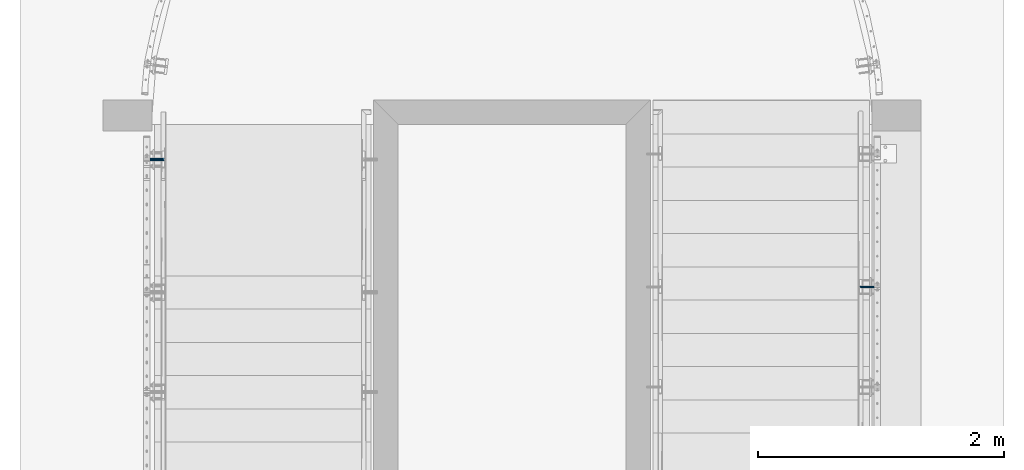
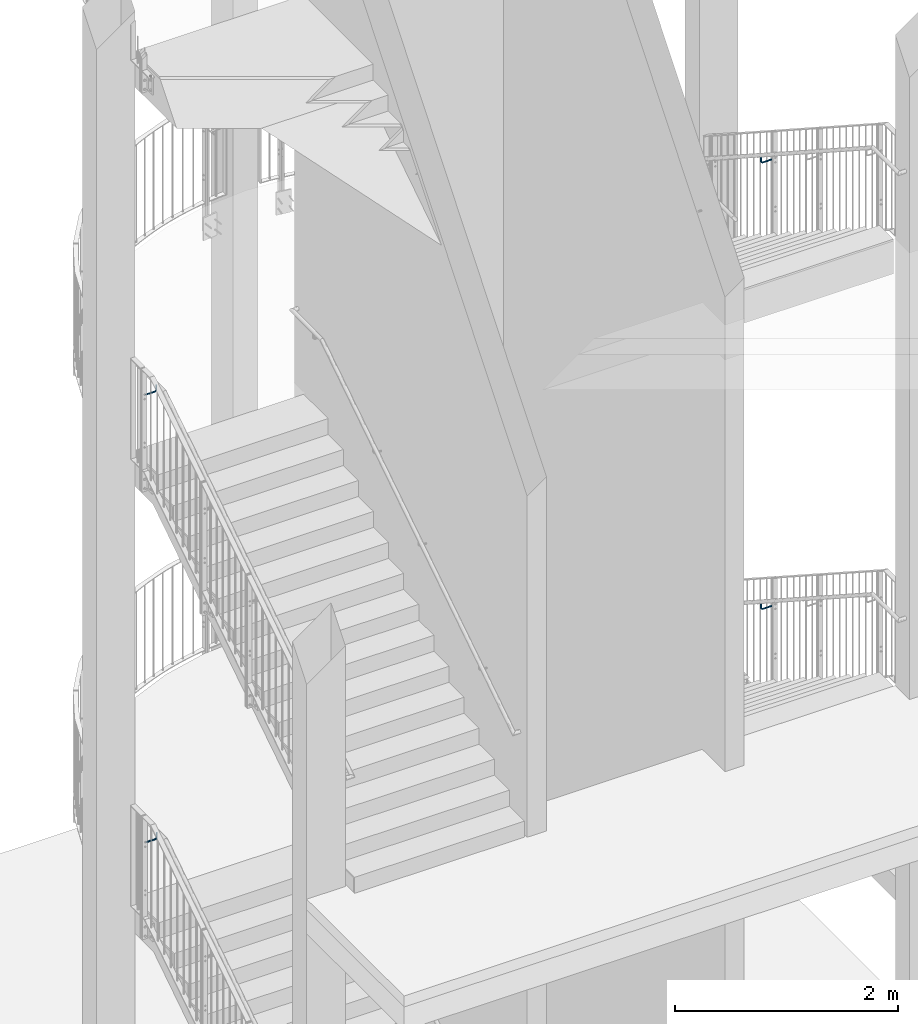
# One storey, part 137 of 296: 4 beams.
"""IFC2X3 building model written with IfcOpenShell, lengths in millimetres."""

import ifcopenshell
import ifcopenshell.guid

model = None  # the IFC model being written
_history = None  # IfcOwnerHistory: only IFC2X3 demands one
_inside = {}  # id of a spatial element -> (the spatial element, [elements in it])
_under = {}  # id of a project, library or spatial element -> (it, [spatial elements below it])
_declared = {}  # id of a project -> (the project, [libraries it declares])
_typed = {}  # id of a type object -> (the type object, [elements of that type])
_made_of = {}  # id of a material, layer set ... -> (it, [elements and type objects made of it])


def new_model(schema):
    """Start an empty IFC model of exactly this schema.

    Asked for "IFC4X3", IfcOpenShell would pick the latest addendum, in which some entities
    have other attributes; the version numbers below select the first issue.
    IFC2X3 requires an IfcOwnerHistory on every rooted entity: one is made here for all.
    """
    global model, _history
    if schema == "IFC4X3":
        model = ifcopenshell.file(schema_version=(4, 3, 0, 0))
    else:
        model = ifcopenshell.file(schema=schema)
    _inside.clear()
    _under.clear()
    _declared.clear()
    _typed.clear()
    _made_of.clear()
    _history = None
    if model.schema == "IFC2X3":
        org = make("IfcOrganization", Name="unknown")
        user = make(
            "IfcPersonAndOrganization",
            ThePerson=make("IfcPerson", FamilyName="unknown"),
            TheOrganization=org,
        )
        app = make(
            "IfcApplication",
            ApplicationDeveloper=org,
            Version="unknown",
            ApplicationFullName="unknown",
            ApplicationIdentifier="unknown",
        )
        _history = make(
            "IfcOwnerHistory",
            OwningUser=user,
            OwningApplication=app,
            ChangeAction="ADDED",
            CreationDate=0,
        )
    return model


def make(cls, **values):
    """One entity of the class cls with the attributes given. An attribute that is None is left unset."""
    return model.create_entity(
        cls, **{name: value for name, value in values.items() if value is not None}
    )


def entity(cls, *values):
    """Any entity or typed value of the class cls, its attributes in the order of the schema. None: left unset."""
    e = model.create_entity(cls)
    for i, value in enumerate(values):
        if value is not None:
            e[i] = value
    return e


def rooted(cls, **values):
    """An entity with a GlobalId (a new one), such as an element, a storey or a relation."""
    return make(cls, GlobalId=ifcopenshell.guid.new(), OwnerHistory=_history, **values)


def si_unit(unit_type, name, prefix=None):
    """IfcSIUnit, for example si_unit("LENGTHUNIT", "METRE", prefix="MILLI")."""
    return make("IfcSIUnit", UnitType=unit_type, Prefix=prefix, Name=name)


def converted_unit(unit_type, name, factor, base, dimensions=None, offset=None):
    """IfcConversionBasedUnit, such as the inch: factor (a typed value) times the base unit."""
    return make(
        "IfcConversionBasedUnit"
        if offset is None
        else "IfcConversionBasedUnitWithOffset",
        ConversionOffset=offset,
        Dimensions=None
        if dimensions is None
        else entity("IfcDimensionalExponents", *dimensions),
        UnitType=unit_type,
        Name=name,
        ConversionFactor=make(
            "IfcMeasureWithUnit", ValueComponent=factor, UnitComponent=base
        ),
    )


def assignment(units):
    """IfcUnitAssignment: the units of a project."""
    return None if units is None else make("IfcUnitAssignment", Units=units)


def point(xyz):
    """IfcCartesianPoint."""
    return None if xyz is None else make("IfcCartesianPoint", Coordinates=xyz)


def direction(xyz):
    """IfcDirection."""
    return None if xyz is None else make("IfcDirection", DirectionRatios=xyz)


def frame(location, z_axis=None, x_axis=None):
    """IfcAxis2Placement3D, a coordinate frame: its origin and axes. An axis left out is left unset."""
    return make(
        "IfcAxis2Placement3D",
        Location=point(location),
        Axis=direction(z_axis),
        RefDirection=direction(x_axis),
    )


def origin_with_axes():
    """The frame at (0, 0, 0) with the z axis (0, 0, 1) and the x axis (1, 0, 0) written out."""
    return frame((0.0, 0.0, 0.0), z_axis=(0.0, 0.0, 1.0), x_axis=(1.0, 0.0, 0.0))


def place(relative_to, where):
    """IfcLocalPlacement: puts the frame where relative to a parent placement (None: the world)."""
    return make(
        "IfcLocalPlacement", PlacementRelTo=relative_to, RelativePlacement=where
    )


def context(
    kind, dimensions, precision=None, world=None, true_north=None, identifier=None
):
    """IfcGeometricRepresentationContext, for example the 3D "Model" context."""
    return make(
        "IfcGeometricRepresentationContext",
        ContextIdentifier=identifier,
        ContextType=kind,
        CoordinateSpaceDimension=dimensions,
        Precision=precision,
        WorldCoordinateSystem=world,
        TrueNorth=true_north,
    )


def project(units=None, contexts=None):
    """IfcProject with its units and contexts."""
    return rooted(
        "IfcProject",
        Name="project",
        RepresentationContexts=contexts,
        UnitsInContext=assignment(units),
    )


def spatial(cls, under=None, at=None, **own):
    """A site, building, storey or space (cls), placed at a placement, below another one or the project."""
    s = rooted(cls, ObjectPlacement=at, **own)
    if under is not None:
        _under.setdefault(under.id(), (under, []))[1].append(s)
    return s


def faces_of(points, faces, orient=None, outer=None):
    """IfcFace entities. A face is a list of loops; a loop is a list of indices into points, from 0.

    orient and outer hold one flag for each loop. By default every Orientation is true, the
    first loop of a face is its IfcFaceOuterBound and the others are IfcFaceBound.
    """
    made = []
    for i, loops in enumerate(faces):
        bounds = []
        for j, loop in enumerate(loops):
            is_outer = j == 0 if outer is None else outer[i][j]
            bounds.append(
                make(
                    "IfcFaceOuterBound" if is_outer else "IfcFaceBound",
                    Bound=make("IfcPolyLoop", Polygon=[points[k] for k in loop]),
                    Orientation=True if orient is None else orient[i][j],
                )
            )
        made.append(make("IfcFace", Bounds=bounds))
    return made


def faceted_brep(points, faces, orient=None, outer=None, voids=None):
    """IfcFacetedBrep: a solid bounded by flat faces; with voids (closed shells), ...WithVoids."""
    shared = [point(p) for p in points]
    hull = make("IfcClosedShell", CfsFaces=faces_of(shared, faces, orient, outer))
    if voids is None:
        return make("IfcFacetedBrep", Outer=hull)
    return make(
        "IfcFacetedBrepWithVoids",
        Outer=hull,
        Voids=[
            make(cls, CfsFaces=faces_of(shared, fs, o, b)) for cls, fs, o, b in voids
        ],
    )


def shape(context_of_items, identifier, shape_type, items):
    """IfcShapeRepresentation: the items that make up one representation, for example the "Body"."""
    return make(
        "IfcShapeRepresentation",
        ContextOfItems=context_of_items,
        RepresentationIdentifier=identifier,
        RepresentationType=shape_type,
        Items=items,
    )


def material(Name=None, Category=None):
    """IfcMaterial."""
    return make("IfcMaterial", Name=Name, Category=Category)


def made_of(thing, what):
    """Note that an element or type object is made of a material, layer set ...; save() writes the relation."""
    if what is not None:
        _made_of.setdefault(what.id(), (what, []))[1].append(thing)
    return thing


def element(
    cls,
    number,
    at=None,
    inside=None,
    cuts=None,
    type_object=None,
    material=None,
    context=None,
    identifier="Body",
    shape_type=None,
    held_by="IfcProductDefinitionShape",
    body=None,
    shapes=None,
    **own,
):
    """One element of the class cls, such as IfcWall. Its Tag is "e" and its number.

    at: its placement. inside: the storey or other place that contains it. cuts: it is an
    opening in that element (IfcRelVoidsElement). A single representation is given by context,
    identifier, shape_type and body (its items); several are given by shapes. held_by: the class
    of the entity that holds the representations. save() writes the other relations.
    """
    e = rooted(cls, Tag="e%d" % number, ObjectPlacement=at, **own)
    if body is not None:
        shapes = [shape(context, identifier, shape_type, body)]
    if shapes is not None:
        e.Representation = make(held_by, Representations=shapes)
    if inside is not None:
        _inside.setdefault(inside.id(), (inside, []))[1].append(e)
    if cuts is not None:
        rooted(
            "IfcRelVoidsElement", RelatingBuildingElement=cuts, RelatedOpeningElement=e
        )
    if type_object is not None:
        _typed.setdefault(type_object.id(), (type_object, []))[1].append(e)
    return made_of(e, material)


def aggregate(whole, parts):
    """IfcRelAggregates: a whole, such as a stair, and the parts it consists of."""
    return rooted("IfcRelAggregates", RelatingObject=whole, RelatedObjects=parts)


def save(model, path):
    """Write the relations noted so far, then the file.

    IfcRelAggregates (storeys below a building ...), IfcRelContainedInSpatialStructure (elements
    in a storey), IfcRelDefinesByType, IfcRelAssociatesMaterial and IfcRelDeclares: one each for
    every whole, place, type object, material and project.
    """
    for whole, parts in _under.values():
        aggregate(whole, parts)
    for where, things in _inside.values():
        rooted(
            "IfcRelContainedInSpatialStructure",
            RelatedElements=things,
            RelatingStructure=where,
        )
    for kind, things in _typed.values():
        rooted("IfcRelDefinesByType", RelatedObjects=things, RelatingType=kind)
    for what, things in _made_of.values():
        rooted("IfcRelAssociatesMaterial", RelatedObjects=things, RelatingMaterial=what)
    for by, libraries in _declared.values():
        rooted("IfcRelDeclares", RelatingContext=by, RelatedDefinitions=libraries)
    model.write(path)


model = new_model("IFC2X3")

# Units and contexts
model_context = context("Model", 3, precision=1e-09, world=origin_with_axes())
ifc_project = project(units=[si_unit("LENGTHUNIT", "METRE", prefix="MILLI"), si_unit("AREAUNIT", "SQUARE_METRE"), si_unit("VOLUMEUNIT", "CUBIC_METRE"), converted_unit("PLANEANGLEUNIT", "DEGREE", entity("IfcPlaneAngleMeasure", 0.01745329), si_unit("PLANEANGLEUNIT", "RADIAN"), dimensions=[0, 0, 0, 0, 0, 0, 0])], contexts=[model_context])

# Site, building, storey
site_placement = place(None, origin_with_axes())
site = spatial("IfcSite", under=ifc_project, at=site_placement, Name="TZD-S?d | Treppenhausgel?nder", CompositionType="ELEMENT")
building_placement = place(site_placement, origin_with_axes())
building = spatial("IfcBuilding", under=site, at=building_placement, Name="Struktur 1", CompositionType="ELEMENT")
storey_placement = place(building_placement, origin_with_axes())
storey = spatial("IfcBuildingStorey", under=building, at=storey_placement, Name="Default Storey", CompositionType="ELEMENT", Elevation=0.0)

# Beams
ifc_material = material(Name="S235JR")
beam_1_placement = place(None, origin_with_axes())
element("IfcBeam", 1, at=beam_1_placement, inside=storey, material=ifc_material, Name="-", ObjectType="-", context=model_context, shape_type="Brep", body=[
    faceted_brep([(5763.105419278, -1525.00183956, 9357.017363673), (5756.892580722, -1525.00183956, 9357.017363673), (5757.702899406, -1525.543277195, 9357.017363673), (5759.999, -1526.0, 9357.017363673), (5762.295100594, -1525.543277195, 9357.017363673), (5755.756359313, -1524.242640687, 9356.525659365), (5754.455722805, -1522.296100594, 9355.264959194), (5754.455722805, -1522.296100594, 9312.017363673), (5755.756359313, -1524.242640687, 9312.017363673), (5757.702899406, -1525.543277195, 9312.017363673), (5759.999, -1526.0, 9312.017363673), (5762.295100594, -1525.543277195, 9312.017363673), (5764.241640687, -1524.242640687, 9356.525659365), (5764.241640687, -1524.242640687, 9312.017363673), (5765.542277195, -1522.296100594, 9355.264959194), (5765.542277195, -1522.296100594, 9312.017363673), (5765.999, -1520.0, 9353.777861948), (5765.999, -1520.0, 9312.017363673), (5765.542277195, -1517.703899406, 9352.290764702), (5765.542277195, -1517.703899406, 9312.017363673), (5764.241640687, -1515.757359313, 9351.030064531), (5764.241640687, -1515.757359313, 9312.017363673), (5762.295100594, -1514.456722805, 9350.187691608), (5762.295100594, -1514.456722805, 9312.017363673), (5759.999, -1514.0, 9349.891889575), (5759.999, -1514.0, 9312.017363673), (5757.702899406, -1514.456722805, 9350.187691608), (5757.702899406, -1514.456722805, 9312.017363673), (5755.756359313, -1515.757359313, 9351.030064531), (5755.756359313, -1515.757359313, 9312.017363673), (5754.455722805, -1517.703899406, 9352.290764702), (5754.455722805, -1517.703899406, 9312.017363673), (5753.999, -1520.0, 9353.777861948), (5753.999, -1520.0, 9312.017363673), (5869.999, -1524.242640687, 9287.774722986), (5869.999, -1522.296100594, 9286.474086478), (5869.999, -1520.0, 9286.017363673), (5869.999, -1517.703899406, 9286.474086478), (5869.999, -1515.757359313, 9287.774722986), (5869.999, -1514.456722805, 9289.721263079), (5869.999, -1514.0, 9292.017363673), (5869.999, -1514.456722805, 9294.313464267), (5869.999, -1515.757359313, 9296.26000436), (5869.999, -1517.703899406, 9297.560640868), (5869.999, -1520.0, 9298.017363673), (5869.999, -1522.296100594, 9297.560640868), (5869.999, -1524.242640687, 9296.26000436), (5869.999, -1525.543277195, 9294.313464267), (5869.999, -1526.0, 9292.017363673), (5869.999, -1525.543277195, 9289.721263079), (5756.400089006, -1522.296100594, 9302.242374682), (5757.601720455, -1524.242640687, 9302.740106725), (5759.400089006, -1525.543277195, 9303.485015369), (5761.52140935, -1526.0, 9304.363695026), (5763.642729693, -1525.543277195, 9305.242374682), (5765.441098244, -1524.242640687, 9305.987283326), (5766.642729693, -1522.296100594, 9306.485015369), (5767.064686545, -1520.0, 9306.65979562), (5766.642729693, -1517.703899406, 9306.485015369), (5765.441098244, -1515.757359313, 9305.987283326), (5763.642729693, -1514.456722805, 9305.242374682), (5761.52140935, -1514.0, 9304.363695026), (5759.400089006, -1514.456722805, 9303.485015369), (5757.601720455, -1515.757359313, 9302.740106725), (5756.400089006, -1517.703899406, 9302.242374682), (5755.978132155, -1520.0, 9302.067594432), (5761.937175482, -1522.296100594, 9293.955539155), (5762.856864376, -1524.242640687, 9294.875228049), (5764.233276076, -1525.543277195, 9296.251639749), (5765.856864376, -1526.0, 9297.875228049), (5767.480452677, -1525.543277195, 9299.49881635), (5768.856864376, -1524.242640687, 9300.875228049), (5769.776553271, -1522.296100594, 9301.794916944), (5770.099505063, -1520.0, 9302.117868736), (5769.776553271, -1517.703899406, 9301.794916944), (5768.856864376, -1515.757359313, 9300.875228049), (5767.480452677, -1514.456722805, 9299.49881635), (5765.856864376, -1514.0, 9297.875228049), (5764.233276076, -1514.456722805, 9296.251639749), (5762.856864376, -1515.757359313, 9294.875228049), (5761.937175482, -1517.703899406, 9293.955539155), (5761.614223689, -1520.0, 9293.632587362), (5770.224011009, -1522.296100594, 9288.418452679), (5770.721743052, -1524.242640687, 9289.620084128), (5771.466651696, -1525.543277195, 9291.418452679), (5772.345331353, -1526.0, 9293.539773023), (5773.224011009, -1525.543277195, 9295.661093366), (5773.968919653, -1524.242640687, 9297.459461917), (5774.466651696, -1522.296100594, 9298.661093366), (5774.641431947, -1520.0, 9299.083050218), (5774.466651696, -1517.703899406, 9298.661093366), (5773.968919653, -1515.757359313, 9297.459461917), (5773.224011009, -1514.456722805, 9295.661093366), (5772.345331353, -1514.0, 9293.539773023), (5771.466651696, -1514.456722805, 9291.418452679), (5770.721743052, -1515.757359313, 9289.620084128), (5770.224011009, -1517.703899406, 9288.418452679), (5770.049230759, -1520.0, 9287.996495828), (5779.999, -1522.296100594, 9286.474086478), (5779.999, -1524.242640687, 9287.774722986), (5779.999, -1525.543277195, 9289.721263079), (5779.999, -1526.0, 9292.017363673), (5779.999, -1525.543277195, 9294.313464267), (5779.999, -1524.242640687, 9296.26000436), (5779.999, -1522.296100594, 9297.560640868), (5779.999, -1520.0, 9298.017363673), (5779.999, -1517.703899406, 9297.560640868), (5779.999, -1515.757359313, 9296.26000436), (5779.999, -1514.456722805, 9294.313464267), (5779.999, -1514.0, 9292.017363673), (5779.999, -1514.456722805, 9289.721263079), (5779.999, -1515.757359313, 9287.774722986), (5779.999, -1517.703899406, 9286.474086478), (5779.999, -1520.0, 9286.017363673)], [[[0, 1, 2, 3, 4]], [[5, 6, 7, 8]], [[1, 5, 8, 9, 2]], [[3, 2, 9, 10]], [[4, 3, 10, 11]], [[12, 0, 4, 11, 13]], [[14, 12, 13, 15]], [[16, 14, 15, 17]], [[18, 16, 17, 19]], [[20, 18, 19, 21]], [[22, 20, 21, 23]], [[24, 22, 23, 25]], [[26, 24, 25, 27]], [[28, 26, 27, 29]], [[30, 28, 29, 31]], [[32, 30, 31, 33]], [[6, 32, 33, 7]], [[14, 16, 18, 20, 22, 24, 26, 28, 30, 32, 6, 5, 1, 0, 12]], [[34, 35, 36, 37, 38, 39, 40, 41, 42, 43, 44, 45, 46, 47, 48, 49]], [[8, 7, 50, 51]], [[9, 8, 51, 52]], [[10, 9, 52, 53]], [[11, 10, 53, 54]], [[13, 11, 54, 55]], [[15, 13, 55, 56]], [[17, 15, 56, 57]], [[19, 17, 57, 58]], [[21, 19, 58, 59]], [[23, 21, 59, 60]], [[25, 23, 60, 61]], [[27, 25, 61, 62]], [[29, 27, 62, 63]], [[31, 29, 63, 64]], [[33, 31, 64, 65]], [[7, 33, 65, 50]], [[51, 50, 66, 67]], [[52, 51, 67, 68]], [[53, 52, 68, 69]], [[54, 53, 69, 70]], [[55, 54, 70, 71]], [[56, 55, 71, 72]], [[57, 56, 72, 73]], [[58, 57, 73, 74]], [[59, 58, 74, 75]], [[60, 59, 75, 76]], [[61, 60, 76, 77]], [[62, 61, 77, 78]], [[63, 62, 78, 79]], [[64, 63, 79, 80]], [[65, 64, 80, 81]], [[50, 65, 81, 66]], [[67, 66, 82, 83]], [[68, 67, 83, 84]], [[69, 68, 84, 85]], [[70, 69, 85, 86]], [[71, 70, 86, 87]], [[72, 71, 87, 88]], [[73, 72, 88, 89]], [[74, 73, 89, 90]], [[75, 74, 90, 91]], [[76, 75, 91, 92]], [[77, 76, 92, 93]], [[78, 77, 93, 94]], [[79, 78, 94, 95]], [[80, 79, 95, 96]], [[81, 80, 96, 97]], [[66, 81, 97, 82]], [[83, 82, 98, 99]], [[84, 83, 99, 100]], [[85, 84, 100, 101]], [[86, 85, 101, 102]], [[87, 86, 102, 103]], [[88, 87, 103, 104]], [[89, 88, 104, 105]], [[90, 89, 105, 106]], [[91, 90, 106, 107]], [[92, 91, 107, 108]], [[93, 92, 108, 109]], [[94, 93, 109, 110]], [[95, 94, 110, 111]], [[96, 95, 111, 112]], [[97, 96, 112, 113]], [[82, 97, 113, 98]], [[99, 98, 35, 34]], [[100, 99, 34, 49]], [[101, 100, 49, 48]], [[102, 101, 48, 47]], [[103, 102, 47, 46]], [[104, 103, 46, 45]], [[105, 104, 45, 44]], [[106, 105, 44, 43]], [[107, 106, 43, 42]], [[108, 107, 42, 41]], [[109, 108, 41, 40]], [[110, 109, 40, 39]], [[111, 110, 39, 38]], [[112, 111, 38, 37]], [[113, 112, 37, 36]], [[98, 113, 36, 35]]]),
])
beam_2_placement = place(None, origin_with_axes())
element("IfcBeam", 2, at=beam_2_placement, inside=storey, material=ifc_material, Name="-", ObjectType="-", context=model_context, shape_type="Brep", body=[
    faceted_brep([(5763.105415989, -1525.001841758, 4462.704729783), (5756.892584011, -1525.001841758, 4462.704729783), (5757.702899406, -1525.543277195, 4462.704729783), (5759.999, -1526.0, 4462.704729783), (5762.295100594, -1525.543277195, 4462.704729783), (5755.756359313, -1524.242640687, 4462.213856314), (5754.455722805, -1522.296100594, 4460.955290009), (5754.455722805, -1522.296100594, 4417.704729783), (5755.756359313, -1524.242640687, 4417.704729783), (5757.702899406, -1525.543277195, 4417.704729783), (5759.999, -1526.0, 4417.704729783), (5762.295100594, -1525.543277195, 4417.704729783), (5764.241640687, -1524.242640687, 4462.213856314), (5764.241640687, -1524.242640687, 4417.704729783), (5765.542277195, -1522.296100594, 4460.955290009), (5765.542277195, -1522.296100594, 4417.704729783), (5765.999, -1520.0, 4459.470709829), (5765.999, -1520.0, 4417.704729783), (5765.542277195, -1517.703899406, 4457.986129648), (5765.542277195, -1517.703899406, 4417.704729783), (5764.241640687, -1515.757359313, 4456.727563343), (5764.241640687, -1515.757359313, 4417.704729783), (5762.295100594, -1514.456722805, 4455.886616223), (5762.295100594, -1514.456722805, 4417.704729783), (5759.999, -1514.0, 4455.591314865), (5759.999, -1514.0, 4417.704729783), (5757.702899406, -1514.456722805, 4455.886616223), (5757.702899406, -1514.456722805, 4417.704729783), (5755.756359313, -1515.757359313, 4456.727563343), (5755.756359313, -1515.757359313, 4417.704729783), (5754.455722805, -1517.703899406, 4457.986129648), (5754.455722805, -1517.703899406, 4417.704729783), (5753.999, -1520.0, 4459.470709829), (5753.999, -1520.0, 4417.704729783), (5869.999, -1524.242640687, 4393.462089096), (5869.999, -1522.296100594, 4392.161452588), (5869.999, -1520.0, 4391.704729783), (5869.999, -1517.703899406, 4392.161452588), (5869.999, -1515.757359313, 4393.462089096), (5869.999, -1514.456722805, 4395.408629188), (5869.999, -1514.0, 4397.704729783), (5869.999, -1514.456722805, 4400.000830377), (5869.999, -1515.757359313, 4401.94737047), (5869.999, -1517.703899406, 4403.248006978), (5869.999, -1520.0, 4403.704729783), (5869.999, -1522.296100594, 4403.248006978), (5869.999, -1524.242640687, 4401.94737047), (5869.999, -1525.543277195, 4400.000830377), (5869.999, -1526.0, 4397.704729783), (5869.999, -1525.543277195, 4395.408629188), (5756.400089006, -1522.296100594, 4407.929740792), (5757.601720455, -1524.242640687, 4408.427472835), (5759.400089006, -1525.543277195, 4409.172381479), (5761.52140935, -1526.0, 4410.051061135), (5763.642729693, -1525.543277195, 4410.929740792), (5765.441098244, -1524.242640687, 4411.674649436), (5766.642729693, -1522.296100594, 4412.172381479), (5767.064686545, -1520.0, 4412.34716173), (5766.642729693, -1517.703899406, 4412.172381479), (5765.441098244, -1515.757359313, 4411.674649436), (5763.642729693, -1514.456722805, 4410.929740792), (5761.52140935, -1514.0, 4410.051061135), (5759.400089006, -1514.456722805, 4409.172381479), (5757.601720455, -1515.757359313, 4408.427472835), (5756.400089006, -1517.703899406, 4407.929740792), (5755.978132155, -1520.0, 4407.754960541), (5761.937175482, -1522.296100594, 4399.642905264), (5762.856864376, -1524.242640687, 4400.562594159), (5764.233276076, -1525.543277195, 4401.939005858), (5765.856864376, -1526.0, 4403.562594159), (5767.480452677, -1525.543277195, 4405.186182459), (5768.856864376, -1524.242640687, 4406.562594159), (5769.776553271, -1522.296100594, 4407.482283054), (5770.099505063, -1520.0, 4407.805234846), (5769.776553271, -1517.703899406, 4407.482283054), (5768.856864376, -1515.757359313, 4406.562594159), (5767.480452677, -1514.456722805, 4405.186182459), (5765.856864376, -1514.0, 4403.562594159), (5764.233276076, -1514.456722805, 4401.939005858), (5762.856864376, -1515.757359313, 4400.562594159), (5761.937175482, -1517.703899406, 4399.642905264), (5761.614223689, -1520.0, 4399.319953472), (5770.224011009, -1522.296100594, 4394.105818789), (5770.721743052, -1524.242640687, 4395.307450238), (5771.466651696, -1525.543277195, 4397.105818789), (5772.345331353, -1526.0, 4399.227139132), (5773.224011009, -1525.543277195, 4401.348459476), (5773.968919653, -1524.242640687, 4403.146828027), (5774.466651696, -1522.296100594, 4404.348459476), (5774.641431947, -1520.0, 4404.770416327), (5774.466651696, -1517.703899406, 4404.348459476), (5773.968919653, -1515.757359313, 4403.146828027), (5773.224011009, -1514.456722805, 4401.348459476), (5772.345331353, -1514.0, 4399.227139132), (5771.466651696, -1514.456722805, 4397.105818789), (5770.721743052, -1515.757359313, 4395.307450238), (5770.224011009, -1517.703899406, 4394.105818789), (5770.049230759, -1520.0, 4393.683861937), (5779.999, -1522.296100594, 4392.161452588), (5779.999, -1524.242640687, 4393.462089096), (5779.999, -1525.543277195, 4395.408629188), (5779.999, -1526.0, 4397.704729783), (5779.999, -1525.543277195, 4400.000830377), (5779.999, -1524.242640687, 4401.94737047), (5779.999, -1522.296100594, 4403.248006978), (5779.999, -1520.0, 4403.704729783), (5779.999, -1517.703899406, 4403.248006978), (5779.999, -1515.757359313, 4401.94737047), (5779.999, -1514.456722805, 4400.000830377), (5779.999, -1514.0, 4397.704729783), (5779.999, -1514.456722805, 4395.408629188), (5779.999, -1515.757359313, 4393.462089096), (5779.999, -1517.703899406, 4392.161452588), (5779.999, -1520.0, 4391.704729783)], [[[0, 1, 2, 3, 4]], [[5, 6, 7, 8]], [[1, 5, 8, 9, 2]], [[3, 2, 9, 10]], [[4, 3, 10, 11]], [[12, 0, 4, 11, 13]], [[14, 12, 13, 15]], [[16, 14, 15, 17]], [[18, 16, 17, 19]], [[20, 18, 19, 21]], [[22, 20, 21, 23]], [[24, 22, 23, 25]], [[26, 24, 25, 27]], [[28, 26, 27, 29]], [[30, 28, 29, 31]], [[32, 30, 31, 33]], [[6, 32, 33, 7]], [[14, 16, 18, 20, 22, 24, 26, 28, 30, 32, 6, 5, 1, 0, 12]], [[34, 35, 36, 37, 38, 39, 40, 41, 42, 43, 44, 45, 46, 47, 48, 49]], [[8, 7, 50, 51]], [[9, 8, 51, 52]], [[10, 9, 52, 53]], [[11, 10, 53, 54]], [[13, 11, 54, 55]], [[15, 13, 55, 56]], [[17, 15, 56, 57]], [[19, 17, 57, 58]], [[21, 19, 58, 59]], [[23, 21, 59, 60]], [[25, 23, 60, 61]], [[27, 25, 61, 62]], [[29, 27, 62, 63]], [[31, 29, 63, 64]], [[33, 31, 64, 65]], [[7, 33, 65, 50]], [[51, 50, 66, 67]], [[52, 51, 67, 68]], [[53, 52, 68, 69]], [[54, 53, 69, 70]], [[55, 54, 70, 71]], [[56, 55, 71, 72]], [[57, 56, 72, 73]], [[58, 57, 73, 74]], [[59, 58, 74, 75]], [[60, 59, 75, 76]], [[61, 60, 76, 77]], [[62, 61, 77, 78]], [[63, 62, 78, 79]], [[64, 63, 79, 80]], [[65, 64, 80, 81]], [[50, 65, 81, 66]], [[67, 66, 82, 83]], [[68, 67, 83, 84]], [[69, 68, 84, 85]], [[70, 69, 85, 86]], [[71, 70, 86, 87]], [[72, 71, 87, 88]], [[73, 72, 88, 89]], [[74, 73, 89, 90]], [[75, 74, 90, 91]], [[76, 75, 91, 92]], [[77, 76, 92, 93]], [[78, 77, 93, 94]], [[79, 78, 94, 95]], [[80, 79, 95, 96]], [[81, 80, 96, 97]], [[66, 81, 97, 82]], [[83, 82, 98, 99]], [[84, 83, 99, 100]], [[85, 84, 100, 101]], [[86, 85, 101, 102]], [[87, 86, 102, 103]], [[88, 87, 103, 104]], [[89, 88, 104, 105]], [[90, 89, 105, 106]], [[91, 90, 106, 107]], [[92, 91, 107, 108]], [[93, 92, 108, 109]], [[94, 93, 109, 110]], [[95, 94, 110, 111]], [[96, 95, 111, 112]], [[97, 96, 112, 113]], [[82, 97, 113, 98]], [[99, 98, 35, 34]], [[100, 99, 34, 49]], [[101, 100, 49, 48]], [[102, 101, 48, 47]], [[103, 102, 47, 46]], [[104, 103, 46, 45]], [[105, 104, 45, 44]], [[106, 105, 44, 43]], [[107, 106, 43, 42]], [[108, 107, 42, 41]], [[109, 108, 41, 40]], [[110, 109, 40, 39]], [[111, 110, 39, 38]], [[112, 111, 38, 37]], [[113, 112, 37, 36]], [[98, 113, 36, 35]]]),
])
beam_3_placement = place(None, origin_with_axes())
element("IfcBeam", 3, at=beam_3_placement, inside=storey, material=ifc_material, Name="-", ObjectType="-", context=model_context, shape_type="Brep", body=[
    faceted_brep([(94.242640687, -484.242640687, 8209.999), (95.543277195, -482.296100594, 8209.999), (96.0, -480.0, 8209.999), (95.543277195, -477.703899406, 8209.999), (94.242640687, -475.757359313, 8209.999), (92.296100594, -474.456722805, 8209.999), (90.0, -474.0, 8209.999), (87.703899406, -474.456722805, 8209.999), (85.757359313, -475.757359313, 8209.999), (84.456722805, -477.703899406, 8209.999), (84.0, -480.0, 8209.999), (84.456722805, -482.296100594, 8209.999), (85.757359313, -484.242640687, 8209.999), (87.703899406, -485.543277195, 8209.999), (90.0, -486.0, 8209.999), (92.296100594, -485.543277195, 8209.999), (-20.0, -482.296100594, 8139.455722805), (-20.0, -484.242640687, 8140.756359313), (-20.0, -485.543277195, 8142.702899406), (-20.0, -486.0, 8144.999), (-20.0, -485.543277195, 8147.295100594), (-20.0, -484.242640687, 8149.241640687), (-20.0, -482.296100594, 8150.542277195), (-20.0, -480.0, 8150.999), (-20.0, -477.703899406, 8150.542277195), (-20.0, -475.757359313, 8149.241640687), (-20.0, -474.456722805, 8147.295100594), (-20.0, -474.0, 8144.999), (-20.0, -474.456722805, 8142.702899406), (-20.0, -475.757359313, 8140.756359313), (-20.0, -477.703899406, 8139.455722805), (-20.0, -480.0, 8138.999), (94.242640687, -484.242640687, 8164.999), (95.543277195, -482.296100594, 8164.999), (92.296100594, -485.543277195, 8164.999), (90.0, -486.0, 8164.999), (87.703899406, -485.543277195, 8164.999), (85.757359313, -484.242640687, 8164.999), (84.456722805, -482.296100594, 8164.999), (84.0, -480.0, 8164.999), (84.456722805, -477.703899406, 8164.999), (85.757359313, -475.757359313, 8164.999), (87.703899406, -474.456722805, 8164.999), (90.0, -474.0, 8164.999), (92.296100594, -474.456722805, 8164.999), (94.242640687, -475.757359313, 8164.999), (95.543277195, -477.703899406, 8164.999), (96.0, -480.0, 8164.999), (92.397279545, -484.242640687, 8155.721743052), (93.598910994, -482.296100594, 8155.224011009), (90.598910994, -485.543277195, 8156.466651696), (88.47759065, -486.0, 8157.345331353), (86.356270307, -485.543277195, 8158.224011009), (84.557901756, -484.242640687, 8158.968919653), (83.356270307, -482.296100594, 8159.466651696), (82.934313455, -480.0, 8159.641431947), (83.356270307, -477.703899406, 8159.466651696), (84.557901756, -475.757359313, 8158.968919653), (86.356270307, -474.456722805, 8158.224011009), (88.47759065, -474.0, 8157.345331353), (90.598910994, -474.456722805, 8156.466651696), (92.397279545, -475.757359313, 8155.721743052), (93.598910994, -477.703899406, 8155.224011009), (94.020867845, -480.0, 8155.049230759), (87.142135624, -484.242640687, 8147.856864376), (88.061824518, -482.296100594, 8146.937175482), (85.765723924, -485.543277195, 8149.233276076), (84.142135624, -486.0, 8150.856864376), (82.518547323, -485.543277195, 8152.480452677), (81.142135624, -484.242640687, 8153.856864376), (80.222446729, -482.296100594, 8154.776553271), (79.899494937, -480.0, 8155.099505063), (80.222446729, -477.703899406, 8154.776553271), (81.142135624, -475.757359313, 8153.856864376), (82.518547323, -474.456722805, 8152.480452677), (84.142135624, -474.0, 8150.856864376), (85.765723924, -474.456722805, 8149.233276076), (87.142135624, -475.757359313, 8147.856864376), (88.061824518, -477.703899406, 8146.937175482), (88.384776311, -480.0, 8146.614223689), (79.277256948, -484.242640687, 8142.601720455), (79.774988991, -482.296100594, 8141.400089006), (78.532348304, -485.543277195, 8144.400089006), (77.653668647, -486.0, 8146.52140935), (76.774988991, -485.543277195, 8148.642729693), (76.030080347, -484.242640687, 8150.441098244), (75.532348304, -482.296100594, 8151.642729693), (75.357568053, -480.0, 8152.064686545), (75.532348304, -477.703899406, 8151.642729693), (76.030080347, -475.757359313, 8150.441098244), (76.774988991, -474.456722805, 8148.642729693), (77.653668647, -474.0, 8146.52140935), (78.532348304, -474.456722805, 8144.400089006), (79.277256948, -475.757359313, 8142.601720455), (79.774988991, -477.703899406, 8141.400089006), (79.949769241, -480.0, 8140.978132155), (70.0, -484.242640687, 8140.756359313), (70.0, -482.296100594, 8139.455722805), (70.0, -485.543277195, 8142.702899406), (70.0, -486.0, 8144.999), (70.0, -485.543277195, 8147.295100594), (70.0, -484.242640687, 8149.241640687), (70.0, -482.296100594, 8150.542277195), (70.0, -480.0, 8150.999), (70.0, -477.703899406, 8150.542277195), (70.0, -475.757359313, 8149.241640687), (70.0, -474.456722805, 8147.295100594), (70.0, -474.0, 8144.999), (70.0, -474.456722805, 8142.702899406), (70.0, -475.757359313, 8140.756359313), (70.0, -477.703899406, 8139.455722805), (70.0, -480.0, 8138.999)], [[[0, 1, 2, 3, 4, 5, 6, 7, 8, 9, 10, 11, 12, 13, 14, 15]], [[16, 17, 18, 19, 20, 21, 22, 23, 24, 25, 26, 27, 28, 29, 30, 31]], [[1, 0, 32, 33]], [[0, 15, 34, 32]], [[15, 14, 35, 34]], [[14, 13, 36, 35]], [[13, 12, 37, 36]], [[12, 11, 38, 37]], [[11, 10, 39, 38]], [[10, 9, 40, 39]], [[9, 8, 41, 40]], [[8, 7, 42, 41]], [[7, 6, 43, 42]], [[6, 5, 44, 43]], [[5, 4, 45, 44]], [[4, 3, 46, 45]], [[3, 2, 47, 46]], [[2, 1, 33, 47]], [[33, 32, 48, 49]], [[32, 34, 50, 48]], [[34, 35, 51, 50]], [[35, 36, 52, 51]], [[36, 37, 53, 52]], [[37, 38, 54, 53]], [[38, 39, 55, 54]], [[39, 40, 56, 55]], [[40, 41, 57, 56]], [[41, 42, 58, 57]], [[42, 43, 59, 58]], [[43, 44, 60, 59]], [[44, 45, 61, 60]], [[45, 46, 62, 61]], [[46, 47, 63, 62]], [[47, 33, 49, 63]], [[49, 48, 64, 65]], [[48, 50, 66, 64]], [[50, 51, 67, 66]], [[51, 52, 68, 67]], [[52, 53, 69, 68]], [[53, 54, 70, 69]], [[54, 55, 71, 70]], [[55, 56, 72, 71]], [[56, 57, 73, 72]], [[57, 58, 74, 73]], [[58, 59, 75, 74]], [[59, 60, 76, 75]], [[60, 61, 77, 76]], [[61, 62, 78, 77]], [[62, 63, 79, 78]], [[63, 49, 65, 79]], [[65, 64, 80, 81]], [[64, 66, 82, 80]], [[66, 67, 83, 82]], [[67, 68, 84, 83]], [[68, 69, 85, 84]], [[69, 70, 86, 85]], [[70, 71, 87, 86]], [[71, 72, 88, 87]], [[72, 73, 89, 88]], [[73, 74, 90, 89]], [[74, 75, 91, 90]], [[75, 76, 92, 91]], [[76, 77, 93, 92]], [[77, 78, 94, 93]], [[78, 79, 95, 94]], [[79, 65, 81, 95]], [[81, 80, 96, 97]], [[80, 82, 98, 96]], [[82, 83, 99, 98]], [[83, 84, 100, 99]], [[84, 85, 101, 100]], [[85, 86, 102, 101]], [[86, 87, 103, 102]], [[87, 88, 104, 103]], [[88, 89, 105, 104]], [[89, 90, 106, 105]], [[90, 91, 107, 106]], [[91, 92, 108, 107]], [[92, 93, 109, 108]], [[93, 94, 110, 109]], [[94, 95, 111, 110]], [[95, 81, 97, 111]], [[97, 96, 17, 16]], [[96, 98, 18, 17]], [[98, 99, 19, 18]], [[99, 100, 20, 19]], [[100, 101, 21, 20]], [[101, 102, 22, 21]], [[102, 103, 23, 22]], [[103, 104, 24, 23]], [[104, 105, 25, 24]], [[105, 106, 26, 25]], [[106, 107, 27, 26]], [[107, 108, 28, 27]], [[108, 109, 29, 28]], [[109, 110, 30, 29]], [[110, 111, 31, 30]], [[111, 97, 16, 31]]]),
])
beam_4_placement = place(None, origin_with_axes())
element("IfcBeam", 4, at=beam_4_placement, inside=storey, material=ifc_material, Name="-", ObjectType="-", context=model_context, shape_type="Brep", body=[
    faceted_brep([(94.242640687, -494.242640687, 3309.998), (95.543277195, -492.296100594, 3309.998), (96.0, -490.0, 3309.998), (95.543277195, -487.703899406, 3309.998), (94.242640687, -485.757359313, 3309.998), (92.296100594, -484.456722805, 3309.998), (90.0, -484.0, 3309.998), (87.703899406, -484.456722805, 3309.998), (85.757359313, -485.757359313, 3309.998), (84.456722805, -487.703899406, 3309.998), (84.0, -490.0, 3309.998), (84.456722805, -492.296100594, 3309.998), (85.757359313, -494.242640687, 3309.998), (87.703899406, -495.543277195, 3309.998), (90.0, -496.0, 3309.998), (92.296100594, -495.543277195, 3309.998), (-20.0, -492.296100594, 3239.454722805), (-20.0, -494.242640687, 3240.755359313), (-20.0, -495.543277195, 3242.701899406), (-20.0, -496.0, 3244.998), (-20.0, -495.543277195, 3247.294100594), (-20.0, -494.242640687, 3249.240640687), (-20.0, -492.296100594, 3250.541277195), (-20.0, -490.0, 3250.998), (-20.0, -487.703899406, 3250.541277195), (-20.0, -485.757359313, 3249.240640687), (-20.0, -484.456722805, 3247.294100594), (-20.0, -484.0, 3244.998), (-20.0, -484.456722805, 3242.701899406), (-20.0, -485.757359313, 3240.755359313), (-20.0, -487.703899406, 3239.454722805), (-20.0, -490.0, 3238.998), (94.242640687, -494.242640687, 3264.998), (95.543277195, -492.296100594, 3264.998), (92.296100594, -495.543277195, 3264.998), (90.0, -496.0, 3264.998), (87.703899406, -495.543277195, 3264.998), (85.757359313, -494.242640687, 3264.998), (84.456722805, -492.296100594, 3264.998), (84.0, -490.0, 3264.998), (84.456722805, -487.703899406, 3264.998), (85.757359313, -485.757359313, 3264.998), (87.703899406, -484.456722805, 3264.998), (90.0, -484.0, 3264.998), (92.296100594, -484.456722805, 3264.998), (94.242640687, -485.757359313, 3264.998), (95.543277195, -487.703899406, 3264.998), (96.0, -490.0, 3264.998), (92.397279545, -494.242640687, 3255.720743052), (93.598910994, -492.296100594, 3255.223011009), (90.598910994, -495.543277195, 3256.465651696), (88.47759065, -496.0, 3257.344331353), (86.356270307, -495.543277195, 3258.223011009), (84.557901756, -494.242640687, 3258.967919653), (83.356270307, -492.296100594, 3259.465651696), (82.934313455, -490.0, 3259.640431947), (83.356270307, -487.703899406, 3259.465651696), (84.557901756, -485.757359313, 3258.967919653), (86.356270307, -484.456722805, 3258.223011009), (88.47759065, -484.0, 3257.344331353), (90.598910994, -484.456722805, 3256.465651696), (92.397279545, -485.757359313, 3255.720743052), (93.598910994, -487.703899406, 3255.223011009), (94.020867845, -490.0, 3255.048230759), (87.142135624, -494.242640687, 3247.855864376), (88.061824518, -492.296100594, 3246.936175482), (85.765723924, -495.543277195, 3249.232276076), (84.142135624, -496.0, 3250.855864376), (82.518547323, -495.543277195, 3252.479452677), (81.142135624, -494.242640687, 3253.855864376), (80.222446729, -492.296100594, 3254.775553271), (79.899494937, -490.0, 3255.098505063), (80.222446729, -487.703899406, 3254.775553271), (81.142135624, -485.757359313, 3253.855864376), (82.518547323, -484.456722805, 3252.479452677), (84.142135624, -484.0, 3250.855864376), (85.765723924, -484.456722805, 3249.232276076), (87.142135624, -485.757359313, 3247.855864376), (88.061824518, -487.703899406, 3246.936175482), (88.384776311, -490.0, 3246.613223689), (79.277256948, -494.242640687, 3242.600720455), (79.774988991, -492.296100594, 3241.399089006), (78.532348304, -495.543277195, 3244.399089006), (77.653668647, -496.0, 3246.52040935), (76.774988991, -495.543277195, 3248.641729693), (76.030080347, -494.242640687, 3250.440098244), (75.532348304, -492.296100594, 3251.641729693), (75.357568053, -490.0, 3252.063686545), (75.532348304, -487.703899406, 3251.641729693), (76.030080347, -485.757359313, 3250.440098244), (76.774988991, -484.456722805, 3248.641729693), (77.653668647, -484.0, 3246.52040935), (78.532348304, -484.456722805, 3244.399089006), (79.277256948, -485.757359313, 3242.600720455), (79.774988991, -487.703899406, 3241.399089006), (79.949769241, -490.0, 3240.977132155), (70.0, -494.242640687, 3240.755359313), (70.0, -492.296100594, 3239.454722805), (70.0, -495.543277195, 3242.701899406), (70.0, -496.0, 3244.998), (70.0, -495.543277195, 3247.294100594), (70.0, -494.242640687, 3249.240640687), (70.0, -492.296100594, 3250.541277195), (70.0, -490.0, 3250.998), (70.0, -487.703899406, 3250.541277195), (70.0, -485.757359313, 3249.240640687), (70.0, -484.456722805, 3247.294100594), (70.0, -484.0, 3244.998), (70.0, -484.456722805, 3242.701899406), (70.0, -485.757359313, 3240.755359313), (70.0, -487.703899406, 3239.454722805), (70.0, -490.0, 3238.998)], [[[0, 1, 2, 3, 4, 5, 6, 7, 8, 9, 10, 11, 12, 13, 14, 15]], [[16, 17, 18, 19, 20, 21, 22, 23, 24, 25, 26, 27, 28, 29, 30, 31]], [[1, 0, 32, 33]], [[0, 15, 34, 32]], [[15, 14, 35, 34]], [[14, 13, 36, 35]], [[13, 12, 37, 36]], [[12, 11, 38, 37]], [[11, 10, 39, 38]], [[10, 9, 40, 39]], [[9, 8, 41, 40]], [[8, 7, 42, 41]], [[7, 6, 43, 42]], [[6, 5, 44, 43]], [[5, 4, 45, 44]], [[4, 3, 46, 45]], [[3, 2, 47, 46]], [[2, 1, 33, 47]], [[33, 32, 48, 49]], [[32, 34, 50, 48]], [[34, 35, 51, 50]], [[35, 36, 52, 51]], [[36, 37, 53, 52]], [[37, 38, 54, 53]], [[38, 39, 55, 54]], [[39, 40, 56, 55]], [[40, 41, 57, 56]], [[41, 42, 58, 57]], [[42, 43, 59, 58]], [[43, 44, 60, 59]], [[44, 45, 61, 60]], [[45, 46, 62, 61]], [[46, 47, 63, 62]], [[47, 33, 49, 63]], [[49, 48, 64, 65]], [[48, 50, 66, 64]], [[50, 51, 67, 66]], [[51, 52, 68, 67]], [[52, 53, 69, 68]], [[53, 54, 70, 69]], [[54, 55, 71, 70]], [[55, 56, 72, 71]], [[56, 57, 73, 72]], [[57, 58, 74, 73]], [[58, 59, 75, 74]], [[59, 60, 76, 75]], [[60, 61, 77, 76]], [[61, 62, 78, 77]], [[62, 63, 79, 78]], [[63, 49, 65, 79]], [[65, 64, 80, 81]], [[64, 66, 82, 80]], [[66, 67, 83, 82]], [[67, 68, 84, 83]], [[68, 69, 85, 84]], [[69, 70, 86, 85]], [[70, 71, 87, 86]], [[71, 72, 88, 87]], [[72, 73, 89, 88]], [[73, 74, 90, 89]], [[74, 75, 91, 90]], [[75, 76, 92, 91]], [[76, 77, 93, 92]], [[77, 78, 94, 93]], [[78, 79, 95, 94]], [[79, 65, 81, 95]], [[81, 80, 96, 97]], [[80, 82, 98, 96]], [[82, 83, 99, 98]], [[83, 84, 100, 99]], [[84, 85, 101, 100]], [[85, 86, 102, 101]], [[86, 87, 103, 102]], [[87, 88, 104, 103]], [[88, 89, 105, 104]], [[89, 90, 106, 105]], [[90, 91, 107, 106]], [[91, 92, 108, 107]], [[92, 93, 109, 108]], [[93, 94, 110, 109]], [[94, 95, 111, 110]], [[95, 81, 97, 111]], [[97, 96, 17, 16]], [[96, 98, 18, 17]], [[98, 99, 19, 18]], [[99, 100, 20, 19]], [[100, 101, 21, 20]], [[101, 102, 22, 21]], [[102, 103, 23, 22]], [[103, 104, 24, 23]], [[104, 105, 25, 24]], [[105, 106, 26, 25]], [[106, 107, 27, 26]], [[107, 108, 28, 27]], [[108, 109, 29, 28]], [[109, 110, 30, 29]], [[110, 111, 31, 30]], [[111, 97, 16, 31]]]),
])

save(model, "model.ifc")
